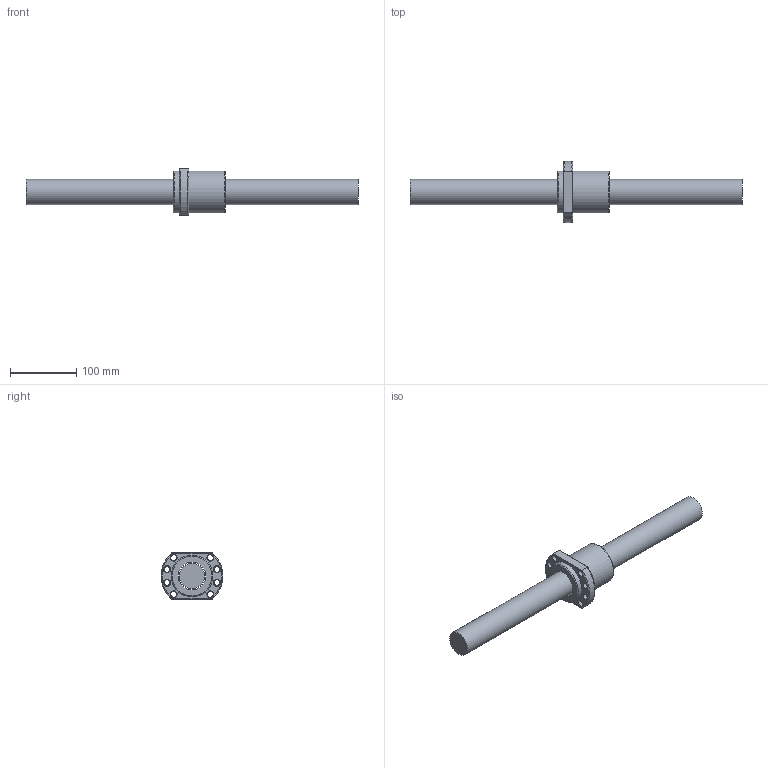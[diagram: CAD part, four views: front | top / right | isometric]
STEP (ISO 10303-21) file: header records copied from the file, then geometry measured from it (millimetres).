
FILE_DESCRIPTION (( 'STEP AP203' ), '1' );
FILE_NAME ('SFA4020-2.8.step', '2024-05-07T07:26:04', ( '' ), ( '' ), 'SwSTEP 2.0', 'SolidWorks 2022', '' );
FILE_SCHEMA (( 'CONFIG_CONTROL_DESIGN' ));
Length unit declared in the file: millimetre
Products named in the file (1): SFA4020-2.8
Bounding box: 500 x 93 x 70 mm (x, y, z)
Volume: 733331.2 mm3; surface area: 99524.6 mm2
Topology: 2 solids, 2 shells, 63 faces, 152 edges, 95 vertices
Faces by surface type: cylinder 22, cone 17, plane 13, torus 6, bspline 5
Full cylindrical faces by diameter (mm): 4 x1, 7 x6, 9 x8, 38 x1, 41.7 x1, 63 x2
Entity records: 3425 total; most frequent: CARTESIAN_POINT 2212, DIRECTION 226, ORIENTED_EDGE 188, EDGE_LOOP 112, AXIS2_PLACEMENT_3D 105, EDGE_CURVE 94, VERTEX_POINT 78, FACE_OUTER_BOUND 73
